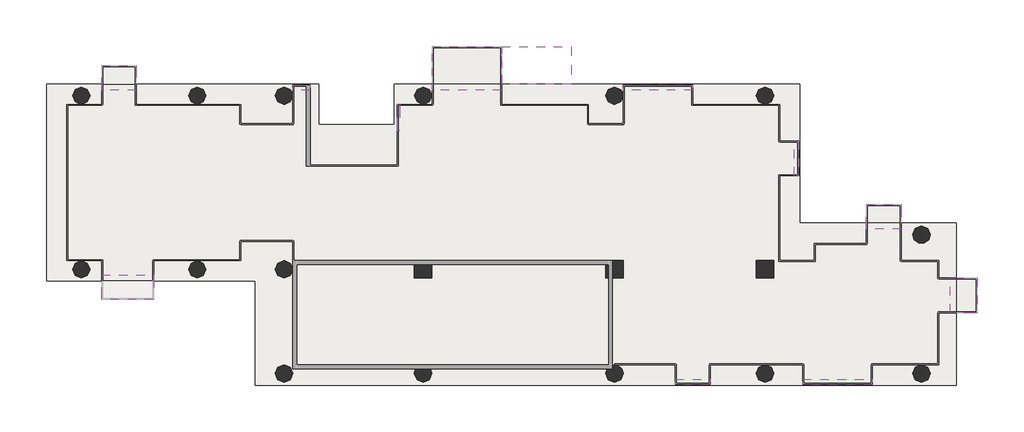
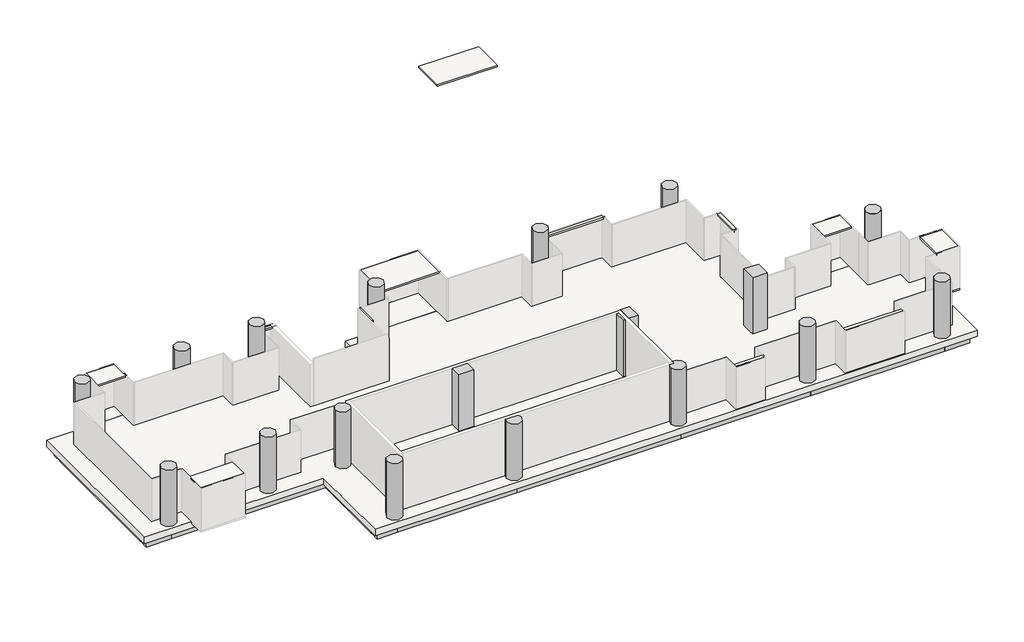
# One storey, part 2 of 2: 38 slabs, 25 beams, 18 columns.
"""IFC4 building model written with IfcOpenShell, lengths in millimetres."""

from ifc_helpers import new_model, si_unit, point, frame, frame_2d, origin, place, context, project, spatial, polyline, circle_curve, trimmed, segment, composite_curve, outline, extrude, transform, mapped, element, save
from components import ajn_arc_ossature_rec_ba_700x600_5242ffbb, ajn_arc_ossature_rec_ba_700x600_213c05e2, ajn_arc_ossature_rec_ba_700x600_4d623bda, ajn_arc_ossature_rec_ba_700x600_c2a8f1af, ajn_arc_ossature_rec_ba_700x600_b2f97811, ajn_arc_ossature_rec_ba_700x600_e688680c, ajn_arc_ossature_rec_ba_700x600_8adee879, ajn_arc_ossature_rec_ba_700x600_6677e51c, ajn_arc_ossature_rec_ba_700x600_60e35d56, ajn_arc_ossature_rec_ba_700x600_9ae0f913, ajn_arc_ossature_rec_ba_700x600_5c14351b, ajn_arc_ossature_rec_ba_700x600_e883967f, ajn_arc_ossature_rec_ba_700x600_0984b03c, ajn_arc_ossature_rec_ba_700x600_78f846f2, ajn_arc_ossature_rec_ba_700x600_e869caa8, ajn_arc_ossature_rec_ba_700x600_0388eb48, ajn_arc_ossature_rec_ba_700x600_e143517c, ajn_arc_ossature_rec_ba_700x600_758f1bfa, ajn_arc_ossature_rec_ba_700x600_64ba80e1, ajn_arc_poteau_circulaire_e6a696d0

model = new_model("IFC4")

# Units and contexts
model_context = context("Model", 3, world=origin())
ifc_project = project(units=[si_unit("LENGTHUNIT", "METRE", prefix="MILLI")], contexts=[model_context])

# Site, building, storey
site = spatial("IfcSite", under=ifc_project)
building = spatial("IfcBuilding", under=site)
storey = spatial("IfcBuildingStorey", under=building, Name="TW-L 14", Elevation=49599.9999686)

# Beams
placement = place(None, origin())
ajn_arc_ossature_rec_ba_700x600_shape = ajn_arc_ossature_rec_ba_700x600_5242ffbb(model_context)
element("IfcBeam", 1, ObjectType="AJN-ARC-OSSATURE REC-BA : 700x600", at=placement, inside=storey, context=model_context, shape_type="MappedRepresentation", body=[
    mapped(ajn_arc_ossature_rec_ba_700x600_shape, transform((119350.0, 39300.0, 49049.9999686), x_axis=(-1.0, 0.0, 0.0), y_axis=(0.0, -1.0, 0.0), z_axis=(0.0, 0.0, 1.0))),
])
ajn_arc_ossature_rec_ba_700x600_2_shape = ajn_arc_ossature_rec_ba_700x600_213c05e2(model_context)
element("IfcBeam", 2, ObjectType="AJN-ARC-OSSATURE REC-BA : 700x600", at=placement, inside=storey, context=model_context, shape_type="MappedRepresentation", body=[
    mapped(ajn_arc_ossature_rec_ba_700x600_2_shape, transform((100900.0, 34800.0, 49049.9999686), x_axis=(0.0, -1.0, 0.0), y_axis=(1.0, 0.0, 0.0), z_axis=(0.0, 0.0, 1.0))),
])
ajn_arc_ossature_rec_ba_700x600_3_shape = ajn_arc_ossature_rec_ba_700x600_4d623bda(model_context)
element("IfcBeam", 3, ObjectType="AJN-ARC-OSSATURE REC-BA : 700x600", at=placement, inside=storey, context=model_context, shape_type="MappedRepresentation", body=[
    mapped(ajn_arc_ossature_rec_ba_700x600_3_shape, transform((112150.0, 24900.0, 49049.9999686), x_axis=(1.0, 0.0, 0.0), y_axis=(0.0, 1.0, 0.0), z_axis=(0.0, 0.0, 1.0))),
])
ajn_arc_ossature_rec_ba_700x600_4_shape = ajn_arc_ossature_rec_ba_700x600_c2a8f1af(model_context)
element("IfcBeam", 4, ObjectType="AJN-ARC-OSSATURE REC-BA : 700x600", at=placement, inside=storey, context=model_context, shape_type="MappedRepresentation", body=[
    mapped(ajn_arc_ossature_rec_ba_700x600_4_shape, transform((116200.0, 24900.0, 49049.9999686), x_axis=(1.0, 0.0, 0.0), y_axis=(0.0, 1.0, 0.0), z_axis=(0.0, 0.0, 1.0))),
])
ajn_arc_ossature_rec_ba_700x600_5_shape = ajn_arc_ossature_rec_ba_700x600_b2f97811(model_context)
element("IfcBeam", 5, ObjectType="AJN-ARC-OSSATURE REC-BA : 700x600", at=placement, inside=storey, context=model_context, shape_type="MappedRepresentation", body=[
    mapped(ajn_arc_ossature_rec_ba_700x600_5_shape, transform((106900.0, 30300.0, 49049.9999686), x_axis=(1.0, 0.0, 0.0), y_axis=(0.0, 1.0, 0.0), z_axis=(0.0, 0.0, 1.0))),
])
ajn_arc_ossature_rec_ba_700x600_6_shape = ajn_arc_ossature_rec_ba_700x600_e688680c(model_context)
element("IfcBeam", 6, ObjectType="AJN-ARC-OSSATURE REC-BA : 700x600", at=placement, inside=storey, context=model_context, shape_type="MappedRepresentation", body=[
    mapped(ajn_arc_ossature_rec_ba_700x600_6_shape, transform((111700.0, 27600.0, 49049.9999686), x_axis=(0.0, -1.0, 0.0), y_axis=(1.0, 0.0, 0.0), z_axis=(0.0, 0.0, 1.0))),
])
ajn_arc_ossature_rec_ba_700x600_7_shape = ajn_arc_ossature_rec_ba_700x600_8adee879(model_context)
element("IfcBeam", 7, ObjectType="AJN-ARC-OSSATURE REC-BA : 700x600", at=placement, inside=storey, context=model_context, shape_type="MappedRepresentation", body=[
    mapped(ajn_arc_ossature_rec_ba_700x600_7_shape, transform((124750.0, 24900.0, 49049.9999686), x_axis=(1.0, 0.0, 0.0), y_axis=(0.0, 1.0, 0.0), z_axis=(0.0, 0.0, 1.0))),
])
element("IfcBeam", 8, ObjectType="AJN-ARC-OSSATURE REC-BA : 700x600", at=placement, inside=storey, context=model_context, shape_type="MappedRepresentation", body=[
    mapped(ajn_arc_ossature_rec_ba_700x600_7_shape, transform((124750.0, 39300.0, 49049.9999686), x_axis=(-1.0, 0.0, 0.0), y_axis=(0.0, -1.0, 0.0), z_axis=(0.0, 0.0, 1.0))),
])
ajn_arc_ossature_rec_ba_700x600_8_shape = ajn_arc_ossature_rec_ba_700x600_6677e51c(model_context)
element("IfcBeam", 9, ObjectType="AJN-ARC-OSSATURE REC-BA : 700x600", at=placement, inside=storey, context=model_context, shape_type="MappedRepresentation", body=[
    mapped(ajn_arc_ossature_rec_ba_700x600_8_shape, transform((133600.0, 24900.0, 49049.9999686), x_axis=(1.0, 0.0, 0.0), y_axis=(0.0, 1.0, 0.0), z_axis=(0.0, 0.0, 1.0))),
])
ajn_arc_ossature_rec_ba_700x600_9_shape = ajn_arc_ossature_rec_ba_700x600_60e35d56(model_context)
element("IfcBeam", 10, ObjectType="AJN-ARC-OSSATURE REC-BA : 700x600", at=placement, inside=storey, context=model_context, shape_type="MappedRepresentation", body=[
    mapped(ajn_arc_ossature_rec_ba_700x600_9_shape, transform((141550.0, 24900.0, 49049.9999686), x_axis=(1.0, 0.0, 0.0), y_axis=(0.0, 1.0, 0.0), z_axis=(0.0, 0.0, 1.0))),
])
ajn_arc_ossature_rec_ba_700x600_10_shape = ajn_arc_ossature_rec_ba_700x600_9ae0f913(model_context)
element("IfcBeam", 11, ObjectType="AJN-ARC-OSSATURE REC-BA : 700x600", at=placement, inside=storey, context=model_context, shape_type="MappedRepresentation", body=[
    mapped(ajn_arc_ossature_rec_ba_700x600_10_shape, transform((146200.0, 24900.0, 49049.9999686), x_axis=(1.0, 0.0, 0.0), y_axis=(0.0, 1.0, 0.0), z_axis=(0.0, 0.0, 1.0))),
])
element("IfcBeam", 12, ObjectType="AJN-ARC-OSSATURE REC-BA : 700x600", at=placement, inside=storey, context=model_context, shape_type="MappedRepresentation", body=[
    mapped(ajn_arc_ossature_rec_ba_700x600_10_shape, transform((101500.0, 39300.0, 49049.9999686), x_axis=(-1.0, 0.0, 0.0), y_axis=(0.0, -1.0, 0.0), z_axis=(0.0, 0.0, 1.0))),
])
ajn_arc_ossature_rec_ba_700x600_11_shape = ajn_arc_ossature_rec_ba_700x600_5c14351b(model_context)
element("IfcBeam", 13, ObjectType="AJN-ARC-OSSATURE REC-BA : 700x600", at=placement, inside=storey, context=model_context, shape_type="MappedRepresentation", body=[
    mapped(ajn_arc_ossature_rec_ba_700x600_11_shape, transform((146800.0, 28500.0, 49049.9999686), x_axis=(0.0, 1.0, 0.0), y_axis=(-1.0, 0.0, 0.0), z_axis=(0.0, 0.0, 1.0))),
])
element("IfcBeam", 14, ObjectType="AJN-ARC-OSSATURE REC-BA : 700x600", at=placement, inside=storey, context=model_context, shape_type="MappedRepresentation", body=[
    mapped(ajn_arc_ossature_rec_ba_700x600_11_shape, transform((138700.0, 35700.0, 49049.9999686), x_axis=(0.0, 1.0, 0.0), y_axis=(-1.0, 0.0, 0.0), z_axis=(0.0, 0.0, 1.0))),
])
ajn_arc_ossature_rec_ba_700x600_12_shape = ajn_arc_ossature_rec_ba_700x600_e883967f(model_context)
element("IfcBeam", 15, ObjectType="AJN-ARC-OSSATURE REC-BA : 700x600", at=placement, inside=storey, context=model_context, shape_type="MappedRepresentation", body=[
    mapped(ajn_arc_ossature_rec_ba_700x600_12_shape, transform((146200.0, 32100.0, 49049.9999686), x_axis=(-1.0, 0.0, 0.0), y_axis=(0.0, -1.0, 0.0), z_axis=(0.0, 0.0, 1.0))),
])
element("IfcBeam", 16, ObjectType="AJN-ARC-OSSATURE REC-BA : 700x600", at=placement, inside=storey, context=model_context, shape_type="MappedRepresentation", body=[
    mapped(ajn_arc_ossature_rec_ba_700x600_12_shape, transform((138100.0, 39300.0, 49049.9999686), x_axis=(-1.0, 0.0, 0.0), y_axis=(0.0, -1.0, 0.0), z_axis=(0.0, 0.0, 1.0))),
])
element("IfcBeam", 17, ObjectType="AJN-ARC-OSSATURE REC-BA : 700x600", at=placement, inside=storey, context=model_context, shape_type="MappedRepresentation", body=[
    mapped(ajn_arc_ossature_rec_ba_700x600_12_shape, transform((113200.0, 39300.0, 49049.9999686), x_axis=(-1.0, 0.0, 0.0), y_axis=(0.0, -1.0, 0.0), z_axis=(0.0, 0.0, 1.0))),
])
element("IfcBeam", 18, ObjectType="AJN-ARC-OSSATURE REC-BA : 700x600", at=placement, inside=storey, context=model_context, shape_type="MappedRepresentation", body=[
    mapped(ajn_arc_ossature_rec_ba_700x600_12_shape, transform((101500.0, 30300.0, 49049.9999686), x_axis=(1.0, 0.0, 0.0), y_axis=(0.0, 1.0, 0.0), z_axis=(0.0, 0.0, 1.0))),
])
ajn_arc_ossature_rec_ba_700x600_13_shape = ajn_arc_ossature_rec_ba_700x600_0984b03c(model_context)
element("IfcBeam", 19, ObjectType="AJN-ARC-OSSATURE REC-BA : 700x600", at=placement, inside=storey, context=model_context, shape_type="MappedRepresentation", body=[
    mapped(ajn_arc_ossature_rec_ba_700x600_13_shape, transform((142150.0, 32100.0, 49049.9999686), x_axis=(-1.0, 0.0, 0.0), y_axis=(0.0, -1.0, 0.0), z_axis=(0.0, 0.0, 1.0))),
])
ajn_arc_ossature_rec_ba_700x600_14_shape = ajn_arc_ossature_rec_ba_700x600_78f846f2(model_context)
element("IfcBeam", 20, ObjectType="AJN-ARC-OSSATURE REC-BA : 700x600", at=placement, inside=storey, context=model_context, shape_type="MappedRepresentation", body=[
    mapped(ajn_arc_ossature_rec_ba_700x600_14_shape, transform((133600.0, 39300.0, 49049.9999686), x_axis=(-1.0, 0.0, 0.0), y_axis=(0.0, -1.0, 0.0), z_axis=(0.0, 0.0, 1.0))),
])
ajn_arc_ossature_rec_ba_700x600_15_shape = ajn_arc_ossature_rec_ba_700x600_e869caa8(model_context)
element("IfcBeam", 21, ObjectType="AJN-ARC-OSSATURE REC-BA : 700x600", at=placement, inside=storey, context=model_context, shape_type="MappedRepresentation", body=[
    mapped(ajn_arc_ossature_rec_ba_700x600_15_shape, transform((118900.0, 38250.0, 49049.9999686), x_axis=(0.0, -1.0, 0.0), y_axis=(1.0, 0.0, 0.0), z_axis=(0.0, 0.0, 1.0))),
])
ajn_arc_ossature_rec_ba_700x600_16_shape = ajn_arc_ossature_rec_ba_700x600_0388eb48(model_context)
element("IfcBeam", 22, ObjectType="AJN-ARC-OSSATURE REC-BA : 700x600", at=placement, inside=storey, context=model_context, shape_type="MappedRepresentation", body=[
    mapped(ajn_arc_ossature_rec_ba_700x600_16_shape, transform((110350.0, 39300.0, 49049.9999686), x_axis=(-1.0, 0.0, 0.0), y_axis=(0.0, -1.0, 0.0), z_axis=(0.0, 0.0, 1.0))),
])
ajn_arc_ossature_rec_ba_700x600_17_shape = ajn_arc_ossature_rec_ba_700x600_e143517c(model_context)
element("IfcBeam", 23, ObjectType="AJN-ARC-OSSATURE REC-BA : 700x600", at=placement, inside=storey, context=model_context, shape_type="MappedRepresentation", body=[
    mapped(ajn_arc_ossature_rec_ba_700x600_17_shape, transform((105100.0, 39300.0, 49049.9999686), x_axis=(-1.0, 0.0, 0.0), y_axis=(0.0, -1.0, 0.0), z_axis=(0.0, 0.0, 1.0))),
])
ajn_arc_ossature_rec_ba_700x600_18_shape = ajn_arc_ossature_rec_ba_700x600_758f1bfa(model_context)
element("IfcBeam", 24, ObjectType="AJN-ARC-OSSATURE REC-BA : 700x600", at=placement, inside=storey, context=model_context, shape_type="MappedRepresentation", body=[
    mapped(ajn_arc_ossature_rec_ba_700x600_18_shape, transform((116350.0, 37200.0, 49049.9999686), x_axis=(-1.0, 0.0, 0.0), y_axis=(0.0, -1.0, 0.0), z_axis=(0.0, 0.0, 1.0))),
])
ajn_arc_ossature_rec_ba_700x600_19_shape = ajn_arc_ossature_rec_ba_700x600_64ba80e1(model_context)
element("IfcBeam", 25, ObjectType="AJN-ARC-OSSATURE REC-BA : 700x600", at=placement, inside=storey, context=model_context, shape_type="MappedRepresentation", body=[
    mapped(ajn_arc_ossature_rec_ba_700x600_19_shape, transform((113800.0, 38250.0, 49049.9999686), x_axis=(0.0, 1.0, 0.0), y_axis=(-1.0, 0.0, 0.0), z_axis=(0.0, 0.0, 1.0))),
])

# Columns
element("IfcColumn", 26, ObjectType="AJN-ARC-POTEAU CIRCULAIRE : ø90", at=placement, inside=storey, context=model_context, shape_type="SweptSolid", body=[
    extrude(outline(composite_curve([segment(trimmed(circle_curve(frame_2d((102100.0, 39300.0)), 450.0), [point((101650.0, 39300.0))], [point((102550.0, 39300.0))], False, "CARTESIAN"), True, "CONTINUOUS"), segment(trimmed(circle_curve(frame_2d((102100.0, 39300.0)), 450.0), [point((102550.0, 39300.0))], [point((101650.0, 39300.0))], False, "CARTESIAN"), True, "CONTINUOUS")], self_intersect=False)), frame((0.0, 0.0, 49599.9999686), z_axis=(0.0, 0.0, 1.0), x_axis=(1.0, 0.0, 0.0)), (0.0, 0.0, 1.0), 3600.0),
])
element("IfcColumn", 27, ObjectType="AJN-ARC-POTEAU CIRCULAIRE : ø90", at=placement, inside=storey, context=model_context, shape_type="SweptSolid", body=[
    extrude(outline(composite_curve([segment(trimmed(circle_curve(frame_2d((102100.0, 30300.0)), 450.0), [point((101650.0, 30300.0))], [point((102550.0, 30300.0))], False, "CARTESIAN"), True, "CONTINUOUS"), segment(trimmed(circle_curve(frame_2d((102100.0, 30300.0)), 450.0), [point((102550.0, 30300.0))], [point((101650.0, 30300.0))], False, "CARTESIAN"), True, "CONTINUOUS")], self_intersect=False)), frame((0.0, 0.0, 49599.9999686), z_axis=(0.0, 0.0, 1.0), x_axis=(1.0, 0.0, 0.0)), (0.0, 0.0, 1.0), 3600.0),
])
element("IfcColumn", 28, ObjectType="AJN-ARC-POTEAU CIRCULAIRE : ø90", at=placement, inside=storey, context=model_context, shape_type="SweptSolid", body=[
    extrude(outline(composite_curve([segment(trimmed(circle_curve(frame_2d((108100.0, 30300.0)), 450.0), [point((107650.0, 30300.0))], [point((108550.0, 30300.0))], False, "CARTESIAN"), True, "CONTINUOUS"), segment(trimmed(circle_curve(frame_2d((108100.0, 30300.0)), 450.0), [point((108550.0, 30300.0))], [point((107650.0, 30300.0))], False, "CARTESIAN"), True, "CONTINUOUS")], self_intersect=False)), frame((0.0, 0.0, 49599.9999686), z_axis=(0.0, 0.0, 1.0), x_axis=(1.0, 0.0, 0.0)), (0.0, 0.0, 1.0), 3600.0),
])
element("IfcColumn", 29, ObjectType="AJN-ARC-POTEAU CIRCULAIRE : ø90", at=placement, inside=storey, context=model_context, shape_type="SweptSolid", body=[
    extrude(outline(composite_curve([segment(trimmed(circle_curve(frame_2d((108100.0, 39300.0)), 450.0), [point((107650.0, 39300.0))], [point((108550.0, 39300.0))], False, "CARTESIAN"), True, "CONTINUOUS"), segment(trimmed(circle_curve(frame_2d((108100.0, 39300.0)), 450.0), [point((108550.0, 39300.0))], [point((107650.0, 39300.0))], False, "CARTESIAN"), True, "CONTINUOUS")], self_intersect=False)), frame((0.0, 0.0, 49599.9999686), z_axis=(0.0, 0.0, 1.0), x_axis=(1.0, 0.0, 0.0)), (0.0, 0.0, 1.0), 3600.0),
])
element("IfcColumn", 30, ObjectType="AJN-ARC-POTEAU CIRCULAIRE : ø90", at=placement, inside=storey, context=model_context, shape_type="SweptSolid", body=[
    extrude(outline(composite_curve([segment(trimmed(circle_curve(frame_2d((112600.0, 39300.0)), 450.0), [point((112150.0, 39300.0))], [point((113050.0, 39300.0))], False, "CARTESIAN"), True, "CONTINUOUS"), segment(trimmed(circle_curve(frame_2d((112600.0, 39300.0)), 450.0), [point((113050.0, 39300.0))], [point((112150.0, 39300.0))], False, "CARTESIAN"), True, "CONTINUOUS")], self_intersect=False)), frame((0.0, 0.0, 49599.9999686), z_axis=(0.0, 0.0, 1.0), x_axis=(1.0, 0.0, 0.0)), (0.0, 0.0, 1.0), 3600.0),
])
element("IfcColumn", 31, ObjectType="AJN-ARC-POTEAU CIRCULAIRE : ø90", at=placement, inside=storey, context=model_context, shape_type="SweptSolid", body=[
    extrude(outline(composite_curve([segment(trimmed(circle_curve(frame_2d((112600.0, 30300.0)), 450.0), [point((112150.0, 30300.0))], [point((113050.0, 30300.0))], False, "CARTESIAN"), True, "CONTINUOUS"), segment(trimmed(circle_curve(frame_2d((112600.0, 30300.0)), 450.0), [point((113050.0, 30300.0))], [point((112150.0, 30300.0))], False, "CARTESIAN"), True, "CONTINUOUS")], self_intersect=False)), frame((0.0, 0.0, 49599.9999686), z_axis=(0.0, 0.0, 1.0), x_axis=(1.0, 0.0, 0.0)), (0.0, 0.0, 1.0), 3600.0),
])
element("IfcColumn", 32, ObjectType="AJN-ARC-POTEAU CIRCULAIRE : ø90", at=placement, inside=storey, context=model_context, shape_type="SweptSolid", body=[
    extrude(outline(composite_curve([segment(trimmed(circle_curve(frame_2d((112600.0, 24900.0)), 450.0), [point((112150.0, 24900.0))], [point((113050.0, 24900.0))], False, "CARTESIAN"), True, "CONTINUOUS"), segment(trimmed(circle_curve(frame_2d((112600.0, 24900.0)), 450.0), [point((113050.0, 24900.0))], [point((112150.0, 24900.0))], False, "CARTESIAN"), True, "CONTINUOUS")], self_intersect=False)), frame((0.0, 0.0, 49599.9999686), z_axis=(0.0, 0.0, 1.0), x_axis=(1.0, 0.0, 0.0)), (0.0, 0.0, 1.0), 3600.0),
])
element("IfcColumn", 33, ObjectType="AJN-ARC-POTEAU CIRCULAIRE : ø90", at=placement, inside=storey, context=model_context, shape_type="SweptSolid", body=[
    extrude(outline(composite_curve([segment(trimmed(circle_curve(frame_2d((119800.0, 24900.0)), 450.0), [point((120250.0, 24900.0))], [point((119350.0, 24900.0))], False, "CARTESIAN"), True, "CONTINUOUS"), segment(trimmed(circle_curve(frame_2d((119800.0, 24900.0)), 450.0), [point((119350.0, 24900.0))], [point((119425.8342613, 25150.0))], False, "CARTESIAN"), True, "CONTINUOUS"), segment(polyline([(119425.8342613, 25150.0), (120174.1657387, 25150.0)]), True, "CONTINUOUS"), segment(trimmed(circle_curve(frame_2d((119800.0, 24900.0)), 450.0), [point((120174.1657387, 25150.0))], [point((120250.0, 24900.0))], False, "CARTESIAN"), True, "CONTINUOUS")], self_intersect=False)), frame((0.0, 0.0, 49599.9999686), z_axis=(0.0, 0.0, 1.0), x_axis=(1.0, 0.0, 0.0)), (0.0, 0.0, 1.0), 3600.0),
])
element("IfcColumn", 34, ObjectType="AJN-ARC-POTEAU CIRCULAIRE : ø90", at=placement, inside=storey, context=model_context, shape_type="SweptSolid", body=[
    extrude(outline(composite_curve([segment(trimmed(circle_curve(frame_2d((119800.0, 39300.0)), 450.0), [point((119350.0, 39300.0))], [point((120250.0, 39300.0))], False, "CARTESIAN"), True, "CONTINUOUS"), segment(trimmed(circle_curve(frame_2d((119800.0, 39300.0)), 450.0), [point((120250.0, 39300.0))], [point((119350.0, 39300.0))], False, "CARTESIAN"), True, "CONTINUOUS")], self_intersect=False)), frame((0.0, 0.0, 49599.9999686), z_axis=(0.0, 0.0, 1.0), x_axis=(1.0, 0.0, 0.0)), (0.0, 0.0, 1.0), 3600.0),
])
element("IfcColumn", 35, ObjectType="AJN-ARC-POTEAU CIRCULAIRE : ø90", at=placement, inside=storey, context=model_context, shape_type="SweptSolid", body=[
    extrude(outline(composite_curve([segment(trimmed(circle_curve(frame_2d((129700.0, 39300.0)), 450.0), [point((129250.0, 39300.0))], [point((130150.0, 39300.0))], False, "CARTESIAN"), True, "CONTINUOUS"), segment(trimmed(circle_curve(frame_2d((129700.0, 39300.0)), 450.0), [point((130150.0, 39300.0))], [point((129250.0, 39300.0))], False, "CARTESIAN"), True, "CONTINUOUS")], self_intersect=False)), frame((0.0, 0.0, 49599.9999686), z_axis=(0.0, 0.0, 1.0), x_axis=(1.0, 0.0, 0.0)), (0.0, 0.0, 1.0), 3600.0),
])
element("IfcColumn", 36, ObjectType="AJN-ARC-POTEAU CIRCULAIRE : ø90", at=placement, inside=storey, context=model_context, shape_type="SweptSolid", body=[
    extrude(outline(composite_curve([segment(trimmed(circle_curve(frame_2d((129700.0, 24900.0)), 450.0), [point((130150.0, 24900.0))], [point((129250.0, 24900.0))], False, "CARTESIAN"), True, "CONTINUOUS"), segment(trimmed(circle_curve(frame_2d((129700.0, 24900.0)), 450.0), [point((129250.0, 24900.0))], [point((129325.8342613, 25150.0))], False, "CARTESIAN"), True, "CONTINUOUS"), segment(polyline([(129325.8342613, 25150.0), (129600.0, 25150.0), (129600.0, 25338.7482194)]), True, "CONTINUOUS"), segment(trimmed(circle_curve(frame_2d((129700.0, 24900.0)), 450.0), [point((129600.0, 25338.7482194))], [point((130150.0, 24900.0))], False, "CARTESIAN"), True, "CONTINUOUS")], self_intersect=False)), frame((0.0, 0.0, 49599.9999686), z_axis=(0.0, 0.0, 1.0), x_axis=(1.0, 0.0, 0.0)), (0.0, 0.0, 1.0), 3600.0),
])
element("IfcColumn", 37, ObjectType="AJN-ARC-POTEAU CIRCULAIRE : ø90", at=placement, inside=storey, context=model_context, shape_type="SweptSolid", body=[
    extrude(outline(composite_curve([segment(trimmed(circle_curve(frame_2d((137500.0, 39300.0)), 450.0), [point((137050.0, 39300.0))], [point((137950.0, 39300.0))], False, "CARTESIAN"), True, "CONTINUOUS"), segment(trimmed(circle_curve(frame_2d((137500.0, 39300.0)), 450.0), [point((137950.0, 39300.0))], [point((137050.0, 39300.0))], False, "CARTESIAN"), True, "CONTINUOUS")], self_intersect=False)), frame((0.0, 0.0, 49599.9999686), z_axis=(0.0, 0.0, 1.0), x_axis=(1.0, 0.0, 0.0)), (0.0, 0.0, 1.0), 3600.0),
])
element("IfcColumn", 38, ObjectType="AJN-ARC-POTEAU CIRCULAIRE : ø90", at=placement, inside=storey, context=model_context, shape_type="SweptSolid", body=[
    extrude(outline(composite_curve([segment(trimmed(circle_curve(frame_2d((137500.0, 24900.0)), 450.0), [point((137050.0, 24900.0))], [point((137950.0, 24900.0))], False, "CARTESIAN"), True, "CONTINUOUS"), segment(trimmed(circle_curve(frame_2d((137500.0, 24900.0)), 450.0), [point((137950.0, 24900.0))], [point((137050.0, 24900.0))], False, "CARTESIAN"), True, "CONTINUOUS")], self_intersect=False)), frame((0.0, 0.0, 49599.9999686), z_axis=(0.0, 0.0, 1.0), x_axis=(1.0, 0.0, 0.0)), (0.0, 0.0, 1.0), 3600.0),
])
element("IfcColumn", 39, ObjectType="AJN-ARC-POTEAU CIRCULAIRE : ø90", at=placement, inside=storey, context=model_context, shape_type="SweptSolid", body=[
    extrude(outline(composite_curve([segment(trimmed(circle_curve(frame_2d((145600.0, 24900.0)), 450.0), [point((145150.0, 24900.0))], [point((146050.0, 24900.0))], False, "CARTESIAN"), True, "CONTINUOUS"), segment(trimmed(circle_curve(frame_2d((145600.0, 24900.0)), 450.0), [point((146050.0, 24900.0))], [point((145150.0, 24900.0))], False, "CARTESIAN"), True, "CONTINUOUS")], self_intersect=False)), frame((0.0, 0.0, 49599.9999686), z_axis=(0.0, 0.0, 1.0), x_axis=(1.0, 0.0, 0.0)), (0.0, 0.0, 1.0), 3600.0),
])
ajn_arc_poteau_circulaire_shape = ajn_arc_poteau_circulaire_e6a696d0(model_context)
element("IfcColumn", 40, ObjectType="AJN-ARC-POTEAU CIRCULAIRE : ø90", at=placement, inside=storey, context=model_context, shape_type="MappedRepresentation", body=[
    mapped(ajn_arc_poteau_circulaire_shape, transform((145600.0, 32100.0, 0.0), x_axis=(1.0, 0.0, 0.0), y_axis=(0.0, 1.0, 0.0), z_axis=(0.0, 0.0, 1.0))),
])
element("IfcColumn", 41, ObjectType="AJN-ARC-POTEAU RECTANGULAIRE : 900 mm x 900 mm", at=placement, inside=storey, context=model_context, shape_type="SweptSolid", body=[
    extrude(outline(polyline([(137950.0, 30750.0), (137950.0, 29850.0), (137050.0, 29850.0), (137050.0, 30750.0), (137950.0, 30750.0)])), frame((0.0, 0.0, 49599.9999686), z_axis=(0.0, 0.0, 1.0), x_axis=(1.0, 0.0, 0.0)), (0.0, 0.0, 1.0), 3600.0),
])
element("IfcColumn", 42, ObjectType="AJN-ARC-POTEAU RECTANGULAIRE : 900 mm x 900 mm", at=placement, inside=storey, context=model_context, shape_type="SweptSolid", body=[
    extrude(outline(polyline([(129400.0, 29850.0), (129250.0, 29850.0), (129250.0, 30550.0), (129400.0, 30550.0), (129400.0, 29850.0)])), frame((0.0, 0.0, 49599.9999686), z_axis=(0.0, 0.0, 1.0), x_axis=(1.0, 0.0, 0.0)), (0.0, 0.0, 1.0), 3600.0),
    extrude(outline(polyline([(130150.0, 30750.0), (130150.0, 29850.0), (129600.0, 29850.0), (129600.0, 30750.0), (130150.0, 30750.0)])), frame((0.0, 0.0, 49599.9999686), z_axis=(0.0, 0.0, 1.0), x_axis=(1.0, 0.0, 0.0)), (0.0, 0.0, 1.0), 3600.0),
])
element("IfcColumn", 43, ObjectType="AJN-ARC-POTEAU RECTANGULAIRE : 900 mm x 900 mm", at=placement, inside=storey, context=model_context, shape_type="SweptSolid", body=[
    extrude(outline(polyline([(120250.0, 29850.0), (119350.0, 29850.0), (119350.0, 30550.0), (120250.0, 30550.0), (120250.0, 29850.0)])), frame((0.0, 0.0, 49599.9999686), z_axis=(0.0, 0.0, 1.0), x_axis=(1.0, 0.0, 0.0)), (0.0, 0.0, 1.0), 3600.0),
])

# Slabs
element("IfcSlab", 44, ObjectType="AJN-ARC-SLAB-10cm", at=placement, inside=storey, context=model_context, shape_type="SweptSolid", body=[
    extrude(outline(polyline([(123862.058986, 39900.0), (120262.058986, 39900.0), (120262.058986, 41850.0), (123862.058986, 41850.0), (123862.058986, 39900.0)])), frame((0.0, 0.0, 49499.9999686), z_axis=(0.0, 0.0, 1.0), x_axis=(1.0, 0.0, 0.0)), (0.0, 0.0, 1.0), 100.0),
])
element("IfcSlab", 45, ObjectType="AJN-ARC-SLAB-10cm", at=placement, inside=storey, context=model_context, shape_type="SweptSolid", body=[
    extrude(outline(polyline([(144550.0445734, 32700.0), (142750.0445734, 32700.0), (142750.0445734, 33651.6593424), (144550.0445734, 33651.6593424), (144550.0445734, 32700.0)])), frame((0.0, 0.0, 49499.9999686), z_axis=(0.0, 0.0, 1.0), x_axis=(1.0, 0.0, 0.0)), (0.0, 0.0, 1.0), 100.0),
])
element("IfcSlab", 46, ObjectType="AJN-ARC-SLAB-10cm", at=placement, inside=storey, context=model_context, shape_type="SweptSolid", body=[
    extrude(outline(polyline([(104950.0, 39900.0), (103150.0, 39900.0), (103150.0, 40850.0), (104950.0, 40850.0), (104950.0, 39900.0)])), frame((0.0, 0.0, 49499.9999686), z_axis=(0.0, 0.0, 1.0), x_axis=(1.0, 0.0, 0.0)), (0.0, 0.0, 1.0), 100.0),
])
element("IfcSlab", 47, ObjectType="AJN-ARC-SLAB-10cm", at=placement, inside=storey, context=model_context, shape_type="SweptSolid", body=[
    extrude(outline(polyline([(148497.681474, 28048.7282176), (147400.0, 28048.7282176), (147400.0, 29848.7282176), (148497.681474, 29848.7282176), (148497.681474, 28048.7282176)])), frame((0.0, 0.0, 49499.9999686), z_axis=(0.0, 0.0, 1.0), x_axis=(1.0, 0.0, 0.0)), (0.0, 0.0, 1.0), 100.0),
])
element("IfcSlab", 48, ObjectType="AJN-ARC-SLAB-10cm", at=placement, inside=storey, context=model_context, shape_type="SweptSolid", body=[
    extrude(outline(polyline([(105847.1743518, 28750.0), (103147.1743518, 28750.0), (103147.1743518, 29700.0), (105847.1743518, 29700.0), (105847.1743518, 28750.0)])), frame((0.0, 0.0, 49499.9999686), z_axis=(0.0, 0.0, 1.0), x_axis=(1.0, 0.0, 0.0)), (0.0, 0.0, 1.0), 100.0),
])
element("IfcSlab", 49, ObjectType="AJN-ARC-SLAB-10cm", at=placement, inside=storey, context=model_context, shape_type="SweptSolid", body=[
    extrude(outline(polyline([(105847.1743518, 28750.0), (103147.1743518, 28750.0), (103147.1743518, 29700.0), (105847.1743518, 29700.0), (105847.1743518, 28750.0)])), frame((0.0, 0.0, 49499.9999686), z_axis=(0.0, 0.0, 1.0), x_axis=(1.0, 0.0, 0.0)), (0.0, 0.0, 1.0), 100.0),
])
element("IfcSlab", 50, ObjectType="AJN-ARC-SLAB-10cm", at=placement, inside=storey, context=model_context, shape_type="SweptSolid", body=[
    extrude(outline(polyline([(105847.1743518, 28750.0), (103147.1743518, 28750.0), (103147.1743518, 29700.0), (105847.1743518, 29700.0), (105847.1743518, 28750.0)])), frame((0.0, 0.0, 49499.9999686), z_axis=(0.0, 0.0, 1.0), x_axis=(1.0, 0.0, 0.0)), (0.0, 0.0, 1.0), 100.0),
])
element("IfcSlab", 51, ObjectType="AJN-ARC-SLAB-10cm", at=placement, inside=storey, context=model_context, shape_type="SweptSolid", body=[
    extrude(outline(polyline([(105847.1743518, 28750.0), (103147.1743518, 28750.0), (103147.1743518, 29700.0), (105847.1743518, 29700.0), (105847.1743518, 28750.0)])), frame((0.0, 0.0, 49499.9999686), z_axis=(0.0, 0.0, 1.0), x_axis=(1.0, 0.0, 0.0)), (0.0, 0.0, 1.0), 100.0),
])
element("IfcSlab", 52, ObjectType="AJN-ARC-SLAB-10cm", at=placement, inside=storey, context=model_context, shape_type="SweptSolid", body=[
    extrude(outline(polyline([(105847.1743518, 28750.0), (103147.1743518, 28750.0), (103147.1743518, 29700.0), (105847.1743518, 29700.0), (105847.1743518, 28750.0)])), frame((0.0, 0.0, 49499.9999686), z_axis=(0.0, 0.0, 1.0), x_axis=(1.0, 0.0, 0.0)), (0.0, 0.0, 1.0), 100.0),
])
element("IfcSlab", 53, ObjectType="AJN-ARC-SLAB-10cm", at=placement, inside=storey, context=model_context, shape_type="SweptSolid", body=[
    extrude(outline(polyline([(105847.1743518, 28750.0), (103147.1743518, 28750.0), (103147.1743518, 29700.0), (105847.1743518, 29700.0), (105847.1743518, 28750.0)])), frame((0.0, 0.0, 49499.9999686), z_axis=(0.0, 0.0, 1.0), x_axis=(1.0, 0.0, 0.0)), (0.0, 0.0, 1.0), 100.0),
])
element("IfcSlab", 54, ObjectType="AJN-ARC-SLAB-10cm", at=placement, inside=storey, context=model_context, shape_type="SweptSolid", body=[
    extrude(outline(polyline([(105847.1743518, 28750.0), (103147.1743518, 28750.0), (103147.1743518, 29700.0), (105847.1743518, 29700.0), (105847.1743518, 28750.0)])), frame((0.0, 0.0, 49499.9999686), z_axis=(0.0, 0.0, 1.0), x_axis=(1.0, 0.0, 0.0)), (0.0, 0.0, 1.0), 100.0),
])
element("IfcSlab", 55, ObjectType="AJN-ARC-SLAB-10cm", at=placement, inside=storey, context=model_context, shape_type="SweptSolid", body=[
    extrude(outline(polyline([(105847.1743518, 28750.0), (103147.1743518, 28750.0), (103147.1743518, 29700.0), (105847.1743518, 29700.0), (105847.1743518, 28750.0)])), frame((0.0, 0.0, 49499.9999686), z_axis=(0.0, 0.0, 1.0), x_axis=(1.0, 0.0, 0.0)), (0.0, 0.0, 1.0), 100.0),
])
element("IfcSlab", 56, ObjectType="AJN-ARC-SLAB-10cm", at=placement, inside=storey, context=model_context, shape_type="SweptSolid", body=[
    extrude(outline(polyline([(105847.1743518, 28750.0), (103147.1743518, 28750.0), (103147.1743518, 29700.0), (105847.1743518, 29700.0), (105847.1743518, 28750.0)])), frame((0.0, 0.0, 49499.9999686), z_axis=(0.0, 0.0, 1.0), x_axis=(1.0, 0.0, 0.0)), (0.0, 0.0, 1.0), 100.0),
])
element("IfcSlab", 57, ObjectType="AJN-ARC-SLAB-10cm", at=placement, inside=storey, context=model_context, shape_type="SweptSolid", body=[
    extrude(outline(polyline([(105847.1743518, 28750.0), (103147.1743518, 28750.0), (103147.1743518, 29700.0), (105847.1743518, 29700.0), (105847.1743518, 28750.0)])), frame((0.0, 0.0, 49499.9999686), z_axis=(0.0, 0.0, 1.0), x_axis=(1.0, 0.0, 0.0)), (0.0, 0.0, 1.0), 100.0),
])
element("IfcSlab", 58, ObjectType="AJN-ARC-SLAB-10cm", at=placement, inside=storey, context=model_context, shape_type="SweptSolid", body=[
    extrude(outline(polyline([(105847.1743518, 28750.0), (103147.1743518, 28750.0), (103147.1743518, 29700.0), (105847.1743518, 29700.0), (105847.1743518, 28750.0)])), frame((0.0, 0.0, 49499.9999686), z_axis=(0.0, 0.0, 1.0), x_axis=(1.0, 0.0, 0.0)), (0.0, 0.0, 1.0), 100.0),
])
element("IfcSlab", 59, ObjectType="AJN-ARC-SLAB-10cm", at=placement, inside=storey, context=model_context, shape_type="SweptSolid", body=[
    extrude(outline(polyline([(105847.1743518, 28750.0), (103147.1743518, 28750.0), (103147.1743518, 29700.0), (105847.1743518, 29700.0), (105847.1743518, 28750.0)])), frame((0.0, 0.0, 49499.9999686), z_axis=(0.0, 0.0, 1.0), x_axis=(1.0, 0.0, 0.0)), (0.0, 0.0, 1.0), 100.0),
])
element("IfcSlab", 60, ObjectType="AJN-ARC-SLAB-10cm", at=placement, inside=storey, context=model_context, shape_type="SweptSolid", body=[
    extrude(outline(polyline([(105847.1743518, 28750.0), (103147.1743518, 28750.0), (103147.1743518, 29700.0), (105847.1743518, 29700.0), (105847.1743518, 28750.0)])), frame((0.0, 0.0, 49499.9999686), z_axis=(0.0, 0.0, 1.0), x_axis=(1.0, 0.0, 0.0)), (0.0, 0.0, 1.0), 100.0),
])
element("IfcSlab", 61, ObjectType="AJN-ARC-SLAB-10cm", at=placement, inside=storey, context=model_context, shape_type="SweptSolid", body=[
    extrude(outline(polyline([(118600.0, 37500.0), (118450.0, 37500.0), (118450.0, 38850.0), (118600.0, 38850.0), (118600.0, 37500.0)])), frame((0.0, 0.0, 52199.9999686), z_axis=(0.0, 0.0, 1.0), x_axis=(1.0, 0.0, 0.0)), (0.0, 0.0, 1.0), 100.0),
])
element("IfcSlab", 62, ObjectType="AJN-ARC-SLAB-10cm", at=placement, inside=storey, context=model_context, shape_type="SweptSolid", body=[
    extrude(outline(polyline([(123862.058986, 39600.0), (120262.058986, 39600.0), (120262.058986, 41850.0), (123862.058986, 41850.0), (123862.058986, 39600.0)])), frame((0.0, 0.0, 52199.9999686), z_axis=(0.0, 0.0, 1.0), x_axis=(1.0, 0.0, 0.0)), (0.0, 0.0, 1.0), 100.0),
])
element("IfcSlab", 63, ObjectType="AJN-ARC-SLAB-10cm", at=placement, inside=storey, context=model_context, shape_type="SweptSolid", body=[
    extrude(outline(polyline([(133759.0442395, 39600.0), (130159.0442395, 39600.0), (130159.0442395, 39850.0), (133759.0442395, 39850.0), (133759.0442395, 39600.0)])), frame((0.0, 0.0, 52199.9999686), z_axis=(0.0, 0.0, 1.0), x_axis=(1.0, 0.0, 0.0)), (0.0, 0.0, 1.0), 100.0),
])
element("IfcSlab", 64, ObjectType="AJN-ARC-SLAB-10cm", at=placement, inside=storey, context=model_context, shape_type="SweptSolid", body=[
    extrude(outline(polyline([(139250.0, 35150.0), (139000.0, 35150.0), (139000.0, 36950.0), (139250.0, 36950.0), (139250.0, 35150.0)])), frame((0.0, 0.0, 52199.9999686), z_axis=(0.0, 0.0, 1.0), x_axis=(1.0, 0.0, 0.0)), (0.0, 0.0, 1.0), 100.0),
])
element("IfcSlab", 65, ObjectType="AJN-ARC-SLAB-10cm", at=placement, inside=storey, context=model_context, shape_type="SweptSolid", body=[
    extrude(outline(polyline([(143050.0875187, 24350.0), (139450.0875187, 24350.0), (139450.0875187, 24600.0), (143050.0875187, 24600.0), (143050.0875187, 24350.0)])), frame((0.0, 0.0, 52199.9999686), z_axis=(0.0, 0.0, 1.0), x_axis=(1.0, 0.0, 0.0)), (0.0, 0.0, 1.0), 100.0),
])
element("IfcSlab", 66, ObjectType="AJN-ARC-SLAB-10cm", at=placement, inside=storey, context=model_context, shape_type="SweptSolid", body=[
    extrude(outline(polyline([(105847.1743518, 28750.0), (103147.1743518, 28750.0), (103147.1743518, 30000.0), (105847.1743518, 30000.0), (105847.1743518, 28750.0)])), frame((0.0, 0.0, 52199.9999686), z_axis=(0.0, 0.0, 1.0), x_axis=(1.0, 0.0, 0.0)), (0.0, 0.0, 1.0), 100.0),
])
element("IfcSlab", 67, ObjectType="AJN-ARC-SLAB-10cm", at=placement, inside=storey, context=model_context, shape_type="SweptSolid", body=[
    extrude(outline(polyline([(144550.0445734, 32400.0), (142750.0445734, 32400.0), (142750.0445734, 33651.6593424), (144550.0445734, 33651.6593424), (144550.0445734, 32400.0)])), frame((0.0, 0.0, 52199.9999686), z_axis=(0.0, 0.0, 1.0), x_axis=(1.0, 0.0, 0.0)), (0.0, 0.0, 1.0), 100.0),
])
element("IfcSlab", 68, ObjectType="AJN-ARC-SLAB-10cm", at=placement, inside=storey, context=model_context, shape_type="SweptSolid", body=[
    extrude(outline(polyline([(113950.0, 39600.0), (113050.0, 39600.0), (113050.0, 39850.0), (113950.0, 39850.0), (113950.0, 39600.0)])), frame((0.0, 0.0, 52199.9999686), z_axis=(0.0, 0.0, 1.0), x_axis=(1.0, 0.0, 0.0)), (0.0, 0.0, 1.0), 100.0),
])
element("IfcSlab", 69, ObjectType="AJN-ARC-SLAB-10cm", at=placement, inside=storey, context=model_context, shape_type="SweptSolid", body=[
    extrude(outline(polyline([(104950.0, 39600.0), (103150.0, 39600.0), (103150.0, 40850.0), (104950.0, 40850.0), (104950.0, 39600.0)])), frame((0.0, 0.0, 52199.9999686), z_axis=(0.0, 0.0, 1.0), x_axis=(1.0, 0.0, 0.0)), (0.0, 0.0, 1.0), 100.0),
])
element("IfcSlab", 70, ObjectType="AJN-ARC-SLAB-10cm", at=placement, inside=storey, context=model_context, shape_type="SweptSolid", body=[
    extrude(outline(polyline([(134650.3171747, 24350.0), (132850.3171747, 24350.0), (132850.3171747, 24600.0), (134650.3171747, 24600.0), (134650.3171747, 24350.0)])), frame((0.0, 0.0, 52199.9999686), z_axis=(0.0, 0.0, 1.0), x_axis=(1.0, 0.0, 0.0)), (0.0, 0.0, 1.0), 100.0),
])
element("IfcSlab", 71, ObjectType="AJN-ARC-SLAB-10cm", at=placement, inside=storey, context=model_context, shape_type="SweptSolid", body=[
    extrude(outline(polyline([(148497.681474, 28048.7282176), (147100.0, 28048.7282176), (147100.0, 29848.7282176), (148497.681474, 29848.7282176), (148497.681474, 28048.7282176)])), frame((0.0, 0.0, 52199.9999686), z_axis=(0.0, 0.0, 1.0), x_axis=(1.0, 0.0, 0.0)), (0.0, 0.0, 1.0), 100.0),
])
element("IfcSlab", 72, ObjectType="AJN-ARC-SLAB-10cm", at=placement, inside=storey, context=model_context, shape_type="SweptSolid", body=[
    extrude(outline(polyline([(148497.681474, 28048.7282176), (147100.0, 28048.7282176), (147100.0, 29848.7282176), (148497.681474, 29848.7282176), (148497.681474, 28048.7282176)])), frame((0.0, 0.0, 52199.9999686), z_axis=(0.0, 0.0, 1.0), x_axis=(1.0, 0.0, 0.0)), (0.0, 0.0, 1.0), 100.0),
])
element("IfcSlab", 73, ObjectType="AJN-ARC-SLAB-10cm", at=placement, inside=storey, context=model_context, shape_type="SweptSolid", body=[
    extrude(outline(polyline([(148497.681474, 28048.7282176), (147100.0, 28048.7282176), (147100.0, 29848.7282176), (148497.681474, 29848.7282176), (148497.681474, 28048.7282176)])), frame((0.0, 0.0, 52199.9999686), z_axis=(0.0, 0.0, 1.0), x_axis=(1.0, 0.0, 0.0)), (0.0, 0.0, 1.0), 100.0),
])
element("IfcSlab", 74, ObjectType="AJN-ARC-SLAB-10cm", at=placement, inside=storey, context=model_context, shape_type="SweptSolid", body=[
    extrude(outline(polyline([(148497.681474, 28048.7282176), (147100.0, 28048.7282176), (147100.0, 29848.7282176), (148497.681474, 29848.7282176), (148497.681474, 28048.7282176)])), frame((0.0, 0.0, 52199.9999686), z_axis=(0.0, 0.0, 1.0), x_axis=(1.0, 0.0, 0.0)), (0.0, 0.0, 1.0), 100.0),
])
element("IfcSlab", 75, ObjectType="AJN-ARC-SLAB-10cm", at=placement, inside=storey, context=model_context, shape_type="SweptSolid", body=[
    extrude(outline(polyline([(148497.681474, 28048.7282176), (147100.0, 28048.7282176), (147100.0, 29848.7282176), (148497.681474, 29848.7282176), (148497.681474, 28048.7282176)])), frame((0.0, 0.0, 52199.9999686), z_axis=(0.0, 0.0, 1.0), x_axis=(1.0, 0.0, 0.0)), (0.0, 0.0, 1.0), 100.0),
])
element("IfcSlab", 76, ObjectType="AJN-ARC-SLAB-10cm", at=placement, inside=storey, context=model_context, shape_type="SweptSolid", body=[
    extrude(outline(polyline([(148497.681474, 28048.7282176), (147100.0, 28048.7282176), (147100.0, 29848.7282176), (148497.681474, 29848.7282176), (148497.681474, 28048.7282176)])), frame((0.0, 0.0, 52199.9999686), z_axis=(0.0, 0.0, 1.0), x_axis=(1.0, 0.0, 0.0)), (0.0, 0.0, 1.0), 100.0),
])
element("IfcSlab", 77, ObjectType="AJN-ARC-SLAB-10cm", at=placement, inside=storey, context=model_context, shape_type="SweptSolid", body=[
    extrude(outline(polyline([(148497.681474, 28048.7282176), (147100.0, 28048.7282176), (147100.0, 29848.7282176), (148497.681474, 29848.7282176), (148497.681474, 28048.7282176)])), frame((0.0, 0.0, 52199.9999686), z_axis=(0.0, 0.0, 1.0), x_axis=(1.0, 0.0, 0.0)), (0.0, 0.0, 1.0), 100.0),
])
element("IfcSlab", 78, ObjectType="AJN-ARC-SLAB-10cm", at=placement, inside=storey, context=model_context, shape_type="SweptSolid", body=[
    extrude(outline(polyline([(148497.681474, 28048.7282176), (147100.0, 28048.7282176), (147100.0, 29848.7282176), (148497.681474, 29848.7282176), (148497.681474, 28048.7282176)])), frame((0.0, 0.0, 52199.9999686), z_axis=(0.0, 0.0, 1.0), x_axis=(1.0, 0.0, 0.0)), (0.0, 0.0, 1.0), 100.0),
])
element("IfcSlab", 79, ObjectType="AJN-ARC-SLAB-10cm", at=placement, inside=storey, context=model_context, shape_type="SweptSolid", body=[
    extrude(outline(polyline([(148497.681474, 28048.7282176), (147100.0, 28048.7282176), (147100.0, 29848.7282176), (148497.681474, 29848.7282176), (148497.681474, 28048.7282176)])), frame((0.0, 0.0, 52199.9999686), z_axis=(0.0, 0.0, 1.0), x_axis=(1.0, 0.0, 0.0)), (0.0, 0.0, 1.0), 100.0),
])
element("IfcSlab", 80, ObjectType="AJN-ARC-SLAB-10cm", at=placement, inside=storey, context=model_context, shape_type="SweptSolid", body=[
    extrude(outline(polyline([(127463.0639015, 39900.0), (123863.0639015, 39900.0), (123863.0639015, 41850.0), (127463.0639015, 41850.0), (127463.0639015, 39900.0)])), frame((0.0, 0.0, 63900.0), z_axis=(0.0, 0.0, 1.0), x_axis=(1.0, 0.0, 0.0)), (0.0, 0.0, 1.0), 100.0),
])
element("IfcSlab", 81, ObjectType="AJN-ARC-SLAB-40cm", at=placement, inside=storey, context=model_context, shape_type="SweptSolid", body=[
    extrude(outline(polyline([(147400.0, 24300.0), (111100.0, 24300.0), (111100.0, 29700.0), (100300.0, 29700.0), (100300.0, 39900.0), (114400.0, 39900.0), (114400.0, 37800.0), (118300.0, 37800.0), (118300.0, 39900.0), (139300.0, 39900.0), (139300.0, 32700.0), (147400.0, 32700.0), (147400.0, 24300.0)])), frame((0.0, 0.0, 49199.9999686), z_axis=(0.0, 0.0, 1.0), x_axis=(1.0, 0.0, 0.0)), (0.0, 0.0, 1.0), 400.0),
])

save(model, "model.ifc")
